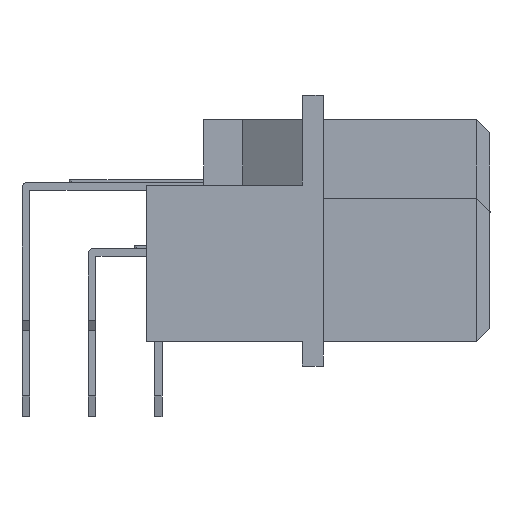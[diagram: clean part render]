
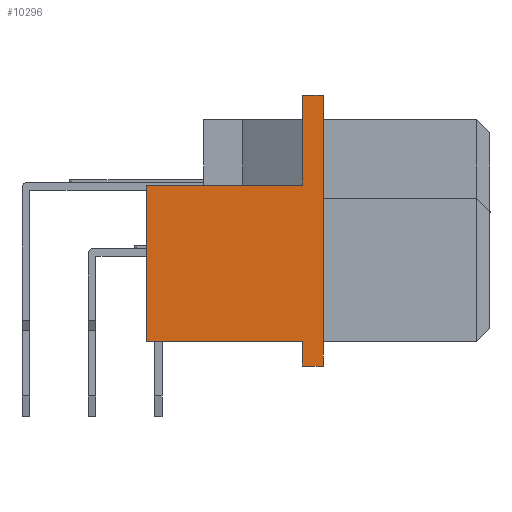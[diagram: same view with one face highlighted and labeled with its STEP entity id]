
A CAD part, left-side view. The second image highlights one B-rep face of the part: STEP entity #10296.
In plain terms, the highlighted planar face has unit normal (-1, 0, 0).
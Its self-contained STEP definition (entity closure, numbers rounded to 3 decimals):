
#426 = EDGE_CURVE ( 'NONE', #9985, #9924, #15841, .T. ) ;
#1515 = CARTESIAN_POINT ( 'NONE',  ( 1486.924, 74.072, 0. ) ) ;
#1539 = FACE_OUTER_BOUND ( 'NONE', #12966, .T. ) ;
#1540 = PLANE ( 'NONE',  #2178 ) ;
#1546 = DIRECTION ( 'NONE',  ( -1., 0., 0. ) ) ;
#1552 = DIRECTION ( 'NONE',  ( 0., 0., 1. ) ) ;
#1861 = DIRECTION ( 'NONE',  ( 0., 0., -1. ) ) ;
#1862 = CARTESIAN_POINT ( 'NONE',  ( 1486.924, 70.272, 0. ) ) ;
#1864 = LINE ( 'NONE', #1862, #2599 ) ;
#2178 = AXIS2_PLACEMENT_3D ( 'NONE', #1515, #1546, #1552 ) ;
#2185 = VECTOR ( 'NONE', #3240, 1000. ) ;
#2472 = VECTOR ( 'NONE', #2681, 1000. ) ;
#2599 = VECTOR ( 'NONE', #1861, 1000. ) ;
#2681 = DIRECTION ( 'NONE',  ( 0., 0., -1. ) ) ;
#2836 = LINE ( 'NONE', #2842, #2472 ) ;
#2842 = CARTESIAN_POINT ( 'NONE',  ( 1486.924, 70.272, 0. ) ) ;
#3206 = LINE ( 'NONE', #3256, #2185 ) ;
#3240 = DIRECTION ( 'NONE',  ( 0., 1., 0. ) ) ;
#3256 = CARTESIAN_POINT ( 'NONE',  ( 1486.924, 70.272, -9.45 ) ) ;
#3562 = DIRECTION ( 'NONE',  ( 0., 1., 0. ) ) ;
#3565 = CARTESIAN_POINT ( 'NONE',  ( 1486.924, 76.272, -8.5 ) ) ;
#3577 = LINE ( 'NONE', #3565, #17524 ) ;
#3660 = DIRECTION ( 'NONE',  ( 0., -1., 0. ) ) ;
#3661 = CARTESIAN_POINT ( 'NONE',  ( 1486.924, 69.472, 0.95 ) ) ;
#3664 = LINE ( 'NONE', #3661, #17472 ) ;
#3817 = DIRECTION ( 'NONE',  ( 0., 1., 0. ) ) ;
#3862 = LINE ( 'NONE', #3873, #17650 ) ;
#3873 = CARTESIAN_POINT ( 'NONE',  ( 1486.924, 69.472, 0. ) ) ;
#3917 = DIRECTION ( 'NONE',  ( 0., 0., 1. ) ) ;
#4108 = LINE ( 'NONE', #4118, #16951 ) ;
#4118 = CARTESIAN_POINT ( 'NONE',  ( 1486.924, 74.072, -2.5 ) ) ;
#4387 = CARTESIAN_POINT ( 'NONE',  ( 1486.924, 70.272, -2.5 ) ) ;
#4430 = CARTESIAN_POINT ( 'NONE',  ( 1486.924, 69.472, -9.45 ) ) ;
#4440 = CARTESIAN_POINT ( 'NONE',  ( 1486.924, 76.272, -2.5 ) ) ;
#4505 = CARTESIAN_POINT ( 'NONE',  ( 1486.924, 70.272, -9.45 ) ) ;
#4544 = CARTESIAN_POINT ( 'NONE',  ( 1486.924, 70.272, 0.95 ) ) ;
#4590 = CARTESIAN_POINT ( 'NONE',  ( 1486.924, 69.472, 0.95 ) ) ;
#4604 = CARTESIAN_POINT ( 'NONE',  ( 1486.924, 76.272, -8.5 ) ) ;
#4614 = CARTESIAN_POINT ( 'NONE',  ( 1486.924, 70.272, -8.5 ) ) ;
#7443 = ORIENTED_EDGE ( 'NONE', *, *, #8479, .T. ) ;
#7444 = ORIENTED_EDGE ( 'NONE', *, *, #8626, .F. ) ;
#7445 = ORIENTED_EDGE ( 'NONE', *, *, #8397, .T. ) ;
#7446 = ORIENTED_EDGE ( 'NONE', *, *, #8340, .F. ) ;
#7447 = ORIENTED_EDGE ( 'NONE', *, *, #8638, .T. ) ;
#7448 = ORIENTED_EDGE ( 'NONE', *, *, #8409, .T. ) ;
#7450 = ORIENTED_EDGE ( 'NONE', *, *, #426, .T. ) ;
#7451 = ORIENTED_EDGE ( 'NONE', *, *, #8362, .F. ) ;
#8340 = EDGE_CURVE ( 'NONE', #10007, #10045, #3664, .T. ) ;
#8362 = EDGE_CURVE ( 'NONE', #9982, #9924, #3577, .T. ) ;
#8397 = EDGE_CURVE ( 'NONE', #9938, #10045, #3862, .T. ) ;
#8409 = EDGE_CURVE ( 'NONE', #9936, #9985, #4108, .T. ) ;
#8479 = EDGE_CURVE ( 'NONE', #9982, #9966, #1864, .T. ) ;
#8626 = EDGE_CURVE ( 'NONE', #9938, #9966, #3206, .T. ) ;
#8638 = EDGE_CURVE ( 'NONE', #10007, #9936, #2836, .T. ) ;
#9924 = VERTEX_POINT ( 'NONE', #4604 ) ;
#9936 = VERTEX_POINT ( 'NONE', #4387 ) ;
#9938 = VERTEX_POINT ( 'NONE', #4430 ) ;
#9966 = VERTEX_POINT ( 'NONE', #4505 ) ;
#9982 = VERTEX_POINT ( 'NONE', #4614 ) ;
#9985 = VERTEX_POINT ( 'NONE', #4440 ) ;
#10007 = VERTEX_POINT ( 'NONE', #4544 ) ;
#10045 = VERTEX_POINT ( 'NONE', #4590 ) ;
#10296 = ADVANCED_FACE ( 'NONE', ( #1539 ), #1540, .T. ) ;
#12966 = EDGE_LOOP ( 'NONE', ( #7443, #7444, #7445, #7446, #7447, #7448, #7450, #7451 ) ) ;
#15832 = DIRECTION ( 'NONE',  ( 0., 0., -1. ) ) ;
#15833 = CARTESIAN_POINT ( 'NONE',  ( 1486.924, 76.272, 0. ) ) ;
#15841 = LINE ( 'NONE', #15833, #17058 ) ;
#16951 = VECTOR ( 'NONE', #3817, 1000. ) ;
#17058 = VECTOR ( 'NONE', #15832, 1000. ) ;
#17472 = VECTOR ( 'NONE', #3660, 1000. ) ;
#17524 = VECTOR ( 'NONE', #3562, 1000. ) ;
#17650 = VECTOR ( 'NONE', #3917, 1000. ) ;
